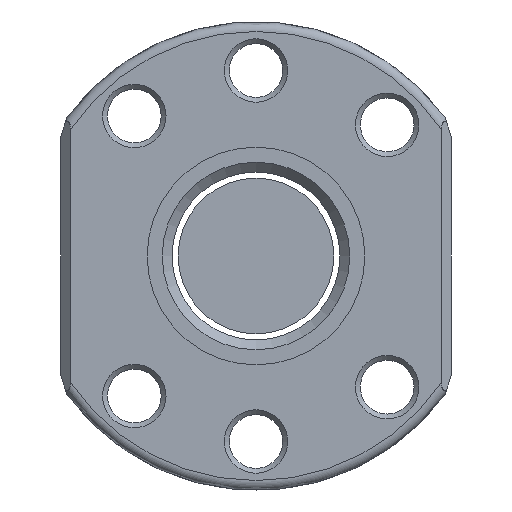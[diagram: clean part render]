
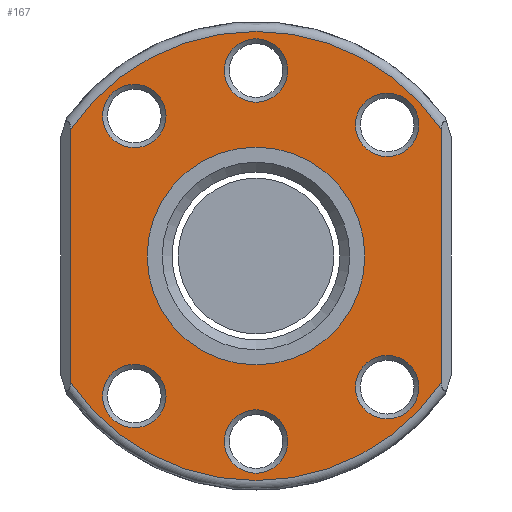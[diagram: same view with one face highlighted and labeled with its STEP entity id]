
A CAD part, front view. The second image highlights one B-rep face of the part: STEP entity #167.
In plain terms, the highlighted planar face has unit normal (0, -1, 0).
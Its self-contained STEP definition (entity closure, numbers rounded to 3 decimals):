
#60=LINE('',#1121,#84);
#61=LINE('',#1125,#85);
#84=VECTOR('',#910,1.);
#85=VECTOR('',#913,1.);
#130=PLANE('',#787);
#167=ADVANCED_FACE('',(#236,#237,#238,#239,#240,#241,#242,#243),#130,.T.);
#236=FACE_BOUND('',#312,.T.);
#237=FACE_BOUND('',#313,.T.);
#238=FACE_BOUND('',#314,.T.);
#239=FACE_BOUND('',#315,.T.);
#240=FACE_BOUND('',#316,.T.);
#241=FACE_BOUND('',#317,.T.);
#242=FACE_BOUND('',#318,.T.);
#243=FACE_BOUND('',#319,.T.);
#312=EDGE_LOOP('',(#407));
#313=EDGE_LOOP('',(#408));
#314=EDGE_LOOP('',(#409));
#315=EDGE_LOOP('',(#410));
#316=EDGE_LOOP('',(#411));
#317=EDGE_LOOP('',(#412));
#318=EDGE_LOOP('',(#413));
#319=EDGE_LOOP('',(#414,#415,#416,#417));
#407=ORIENTED_EDGE('',*,*,#644,.T.);
#408=ORIENTED_EDGE('',*,*,#645,.T.);
#409=ORIENTED_EDGE('',*,*,#646,.T.);
#410=ORIENTED_EDGE('',*,*,#647,.T.);
#411=ORIENTED_EDGE('',*,*,#648,.T.);
#412=ORIENTED_EDGE('',*,*,#649,.T.);
#413=ORIENTED_EDGE('',*,*,#650,.F.);
#414=ORIENTED_EDGE('',*,*,#651,.T.);
#415=ORIENTED_EDGE('',*,*,#652,.T.);
#416=ORIENTED_EDGE('',*,*,#653,.T.);
#417=ORIENTED_EDGE('',*,*,#654,.T.);
#575=VERTEX_POINT('',#1105);
#576=VERTEX_POINT('',#1107);
#577=VERTEX_POINT('',#1109);
#578=VERTEX_POINT('',#1111);
#579=VERTEX_POINT('',#1113);
#580=VERTEX_POINT('',#1115);
#581=VERTEX_POINT('',#1117);
#582=VERTEX_POINT('',#1119);
#583=VERTEX_POINT('',#1120);
#584=VERTEX_POINT('',#1122);
#585=VERTEX_POINT('',#1124);
#644=EDGE_CURVE('',#575,#575,#727,.T.);
#645=EDGE_CURVE('',#576,#576,#728,.T.);
#646=EDGE_CURVE('',#577,#577,#729,.T.);
#647=EDGE_CURVE('',#578,#578,#730,.T.);
#648=EDGE_CURVE('',#579,#579,#731,.T.);
#649=EDGE_CURVE('',#580,#580,#732,.T.);
#650=EDGE_CURVE('',#581,#581,#733,.T.);
#651=EDGE_CURVE('',#582,#583,#734,.T.);
#652=EDGE_CURVE('',#583,#584,#60,.T.);
#653=EDGE_CURVE('',#584,#585,#735,.T.);
#654=EDGE_CURVE('',#585,#582,#61,.T.);
#727=CIRCLE('',#778,3.25);
#728=CIRCLE('',#779,3.25);
#729=CIRCLE('',#780,3.25);
#730=CIRCLE('',#781,3.25);
#731=CIRCLE('',#782,3.25);
#732=CIRCLE('',#783,3.25);
#733=CIRCLE('',#784,11.15);
#734=CIRCLE('',#785,23.);
#735=CIRCLE('',#786,23.);
#778=AXIS2_PLACEMENT_3D('',#1104,#894,#895);
#779=AXIS2_PLACEMENT_3D('',#1106,#896,#897);
#780=AXIS2_PLACEMENT_3D('',#1108,#898,#899);
#781=AXIS2_PLACEMENT_3D('',#1110,#900,#901);
#782=AXIS2_PLACEMENT_3D('',#1112,#902,#903);
#783=AXIS2_PLACEMENT_3D('',#1114,#904,#905);
#784=AXIS2_PLACEMENT_3D('',#1116,#906,#907);
#785=AXIS2_PLACEMENT_3D('',#1118,#908,#909);
#786=AXIS2_PLACEMENT_3D('',#1123,#911,#912);
#787=AXIS2_PLACEMENT_3D('',#1126,#914,#915);
#894=DIRECTION('',(0.,1.,0.));
#895=DIRECTION('',(0.,0.,-1.));
#896=DIRECTION('',(0.,1.,0.));
#897=DIRECTION('',(0.,0.,-1.));
#898=DIRECTION('',(0.,1.,0.));
#899=DIRECTION('',(0.,0.,-1.));
#900=DIRECTION('',(0.,1.,0.));
#901=DIRECTION('',(0.,0.,-1.));
#902=DIRECTION('',(0.,1.,0.));
#903=DIRECTION('',(0.,0.,-1.));
#904=DIRECTION('',(0.,1.,0.));
#905=DIRECTION('',(0.,0.,-1.));
#906=DIRECTION('',(0.,-1.,0.));
#907=DIRECTION('',(1.,0.,0.));
#908=DIRECTION('',(0.,-1.,0.));
#909=DIRECTION('',(0.,0.,-1.));
#910=DIRECTION('',(0.,0.,-1.));
#911=DIRECTION('',(0.,-1.,0.));
#912=DIRECTION('',(0.,0.,-1.));
#913=DIRECTION('',(0.,0.,1.));
#914=DIRECTION('',(0.,-1.,0.));
#915=DIRECTION('',(0.,0.,-1.));
#1104=CARTESIAN_POINT('',(-12.465,0.,14.339));
#1105=CARTESIAN_POINT('',(-12.465,0.,11.089));
#1106=CARTESIAN_POINT('',(0.,0.,-19.));
#1107=CARTESIAN_POINT('',(0.,0.,-22.25));
#1108=CARTESIAN_POINT('',(13.435,0.,-13.435));
#1109=CARTESIAN_POINT('',(13.435,0.,-16.685));
#1110=CARTESIAN_POINT('',(0.,0.,19.));
#1111=CARTESIAN_POINT('',(0.,0.,15.75));
#1112=CARTESIAN_POINT('',(-12.465,0.,-14.339));
#1113=CARTESIAN_POINT('',(-12.465,0.,-17.589));
#1114=CARTESIAN_POINT('',(13.435,0.,13.435));
#1115=CARTESIAN_POINT('',(13.435,0.,10.185));
#1116=CARTESIAN_POINT('',(0.,0.,0.));
#1117=CARTESIAN_POINT('',(11.15,0.,0.));
#1118=CARTESIAN_POINT('',(0.,0.,0.));
#1119=CARTESIAN_POINT('',(19.,0.,12.961));
#1120=CARTESIAN_POINT('',(-19.,0.,12.961));
#1121=CARTESIAN_POINT('',(-19.,0.,0.));
#1122=CARTESIAN_POINT('',(-19.,0.,-12.961));
#1123=CARTESIAN_POINT('',(0.,0.,0.));
#1124=CARTESIAN_POINT('',(19.,0.,-12.961));
#1125=CARTESIAN_POINT('',(19.,0.,11.358));
#1126=CARTESIAN_POINT('',(0.,0.,0.));
